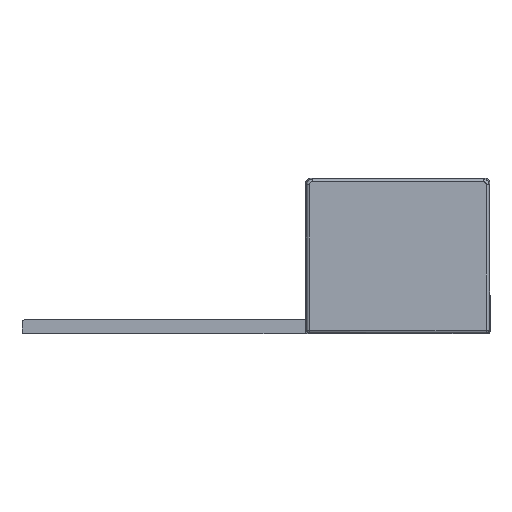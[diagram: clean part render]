
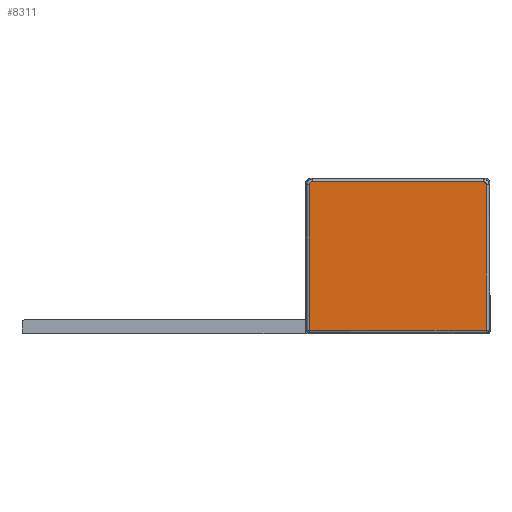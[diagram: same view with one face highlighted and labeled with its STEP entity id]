
A CAD part, front view. The second image highlights one B-rep face of the part: STEP entity #8311.
In plain terms, the highlighted planar face has unit normal (0, -1, 0).
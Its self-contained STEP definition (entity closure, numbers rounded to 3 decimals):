
#108=ELLIPSE('',#9008,0.2,0.2);
#112=ELLIPSE('',#9024,0.2,0.2);
#298=PLANE('',#9031);
#622=FACE_OUTER_BOUND('',#1163,.T.);
#1163=EDGE_LOOP('',(#6125,#6126,#6127,#6128,#6129,#6130,#6131));
#1776=LINE('',#13101,#2561);
#1778=LINE('',#13107,#2563);
#1781=LINE('',#13111,#2566);
#1785=LINE('',#13153,#2570);
#1787=LINE('',#13182,#2572);
#2561=VECTOR('',#10336,10.);
#2563=VECTOR('',#10342,10.);
#2566=VECTOR('',#10347,10.);
#2570=VECTOR('',#10365,10.);
#2572=VECTOR('',#10369,10.);
#3743=VERTEX_POINT('',#13047);
#3745=VERTEX_POINT('',#13051);
#3749=VERTEX_POINT('',#13062);
#3754=VERTEX_POINT('',#13075);
#3756=VERTEX_POINT('',#13105);
#3758=VERTEX_POINT('',#13138);
#3760=VERTEX_POINT('',#13142);
#4603=EDGE_CURVE('',#3745,#3743,#108,.T.);
#4614=EDGE_CURVE('',#3754,#3749,#1776,.T.);
#4617=EDGE_CURVE('',#3756,#3745,#1778,.T.);
#4620=EDGE_CURVE('',#3749,#3756,#1781,.T.);
#4624=EDGE_CURVE('',#3760,#3758,#112,.T.);
#4629=EDGE_CURVE('',#3743,#3760,#1785,.T.);
#4632=EDGE_CURVE('',#3758,#3754,#1787,.T.);
#6125=ORIENTED_EDGE('',*,*,#4624,.F.);
#6126=ORIENTED_EDGE('',*,*,#4629,.F.);
#6127=ORIENTED_EDGE('',*,*,#4603,.F.);
#6128=ORIENTED_EDGE('',*,*,#4617,.F.);
#6129=ORIENTED_EDGE('',*,*,#4620,.F.);
#6130=ORIENTED_EDGE('',*,*,#4614,.F.);
#6131=ORIENTED_EDGE('',*,*,#4632,.F.);
#8311=ADVANCED_FACE('',(#622),#298,.T.);
#9008=AXIS2_PLACEMENT_3D('',#13053,#10312,#10313);
#9024=AXIS2_PLACEMENT_3D('',#13144,#10354,#10355);
#9031=AXIS2_PLACEMENT_3D('',#13209,#10377,#10378);
#10312=DIRECTION('center_axis',(0.,1.,0.));
#10313=DIRECTION('ref_axis',(-0.707,0.,0.707));
#10336=DIRECTION('',(-1.,0.,0.));
#10342=DIRECTION('',(0.,0.,1.));
#10347=DIRECTION('',(0.,0.,1.));
#10354=DIRECTION('center_axis',(0.,1.,0.));
#10355=DIRECTION('ref_axis',(0.707,0.,0.707));
#10365=DIRECTION('',(1.,0.,0.));
#10369=DIRECTION('',(0.,0.,-1.));
#10377=DIRECTION('center_axis',(0.,-1.,0.));
#10378=DIRECTION('ref_axis',(-1.,0.,0.));
#13047=CARTESIAN_POINT('',(-12.537,-2.,0.303));
#13051=CARTESIAN_POINT('',(-12.737,-2.,0.103));
#13053=CARTESIAN_POINT('Origin',(-12.537,-2.,0.103));
#13062=CARTESIAN_POINT('',(-12.737,-2.,-10.171));
#13075=CARTESIAN_POINT('',(-0.263,-2.,-10.171));
#13101=CARTESIAN_POINT('',(-3.35,-2.,-10.171));
#13105=CARTESIAN_POINT('',(-12.737,-2.,0.083));
#13107=CARTESIAN_POINT('',(-12.737,-2.,-2.426));
#13111=CARTESIAN_POINT('',(-12.737,-2.,-7.684));
#13138=CARTESIAN_POINT('',(-0.263,-2.,0.103));
#13142=CARTESIAN_POINT('',(-0.463,-2.,0.303));
#13144=CARTESIAN_POINT('Origin',(-0.463,-2.,0.103));
#13153=CARTESIAN_POINT('',(-9.75,-2.,0.303));
#13182=CARTESIAN_POINT('',(-0.263,-2.,-2.184));
#13209=CARTESIAN_POINT('Origin',(-6.5,-2.,-4.934));
